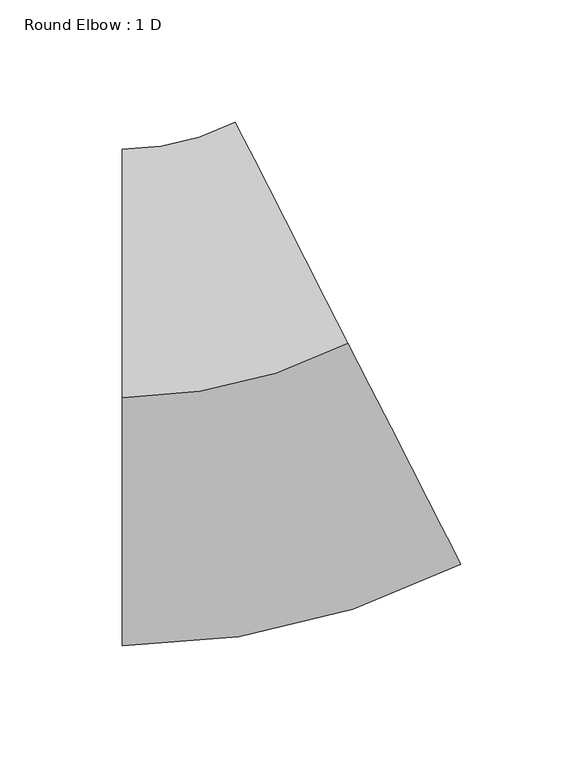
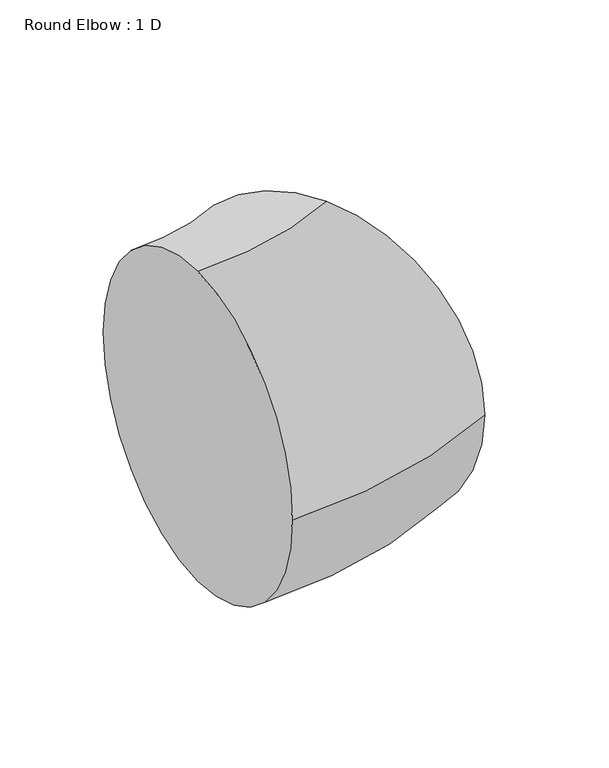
"""IFC4 building model written with IfcOpenShell, lengths in millimetres: duct fitting geometry, Round Elbow : 1 D."""

from ifc_helpers import new_model, si_unit, point, frame, origin, place, context, project, spatial, circle_curve, ellipse_curve, trimmed, source, transform, mapped, element, save
from ifc_brep_helpers import plane_surface, revolved_surface, advanced_brep


def round_elbow_1_d_e295ca55(model_context):
    return source(origin(), model_context, "Body", "AdvancedBrep", [
        advanced_brep(
        [(-48.8789066, 0.0, 101.6), (-48.8789066, 101.6, 0.0), (-48.8789066, 0.0, -101.6), (-48.8789066, -101.6, 0.0), (43.5318116, 22.2290102, 101.6), (89.7371707, -68.2564847, 0.0), (43.5318116, 22.2290102, -101.6), (-2.6735475, 112.7145051, 0.0)],
        [
            (0, 1, circle_curve(frame((-48.8789066, 0.0, 0.0), z_axis=(-1.0, 0.0, 0.0), x_axis=(0.0, 1.0, 0.0)), 101.6)),
            (1, 2, circle_curve(frame((-48.8789066, 0.0, 0.0), z_axis=(-1.0, 0.0, 0.0), x_axis=(0.0, 1.0, 0.0)), 101.6)),
            (2, 3, circle_curve(frame((-48.8789066, 0.0, 0.0), z_axis=(-1.0, 0.0, 0.0), x_axis=(0.0, 1.0, 0.0)), 101.6)),
            (3, 0, circle_curve(frame((-48.8789066, 0.0, 0.0), z_axis=(-1.0, 0.0, 0.0), x_axis=(0.0, 1.0, 0.0)), 101.6)),
            (4, 5, circle_curve(frame((43.5318116, 22.2290102, 0.0), z_axis=(0.8906052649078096, 0.45477715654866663, 0.0), x_axis=(-0.45477715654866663, 0.8906052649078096, 0.0)), 101.6)),
            (5, 6, circle_curve(frame((43.5318116, 22.2290102, 0.0), z_axis=(0.8906052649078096, 0.45477715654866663, 0.0), x_axis=(-0.45477715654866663, 0.8906052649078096, 0.0)), 101.6)),
            (6, 7, circle_curve(frame((43.5318116, 22.2290102, 0.0), z_axis=(0.8906052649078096, 0.45477715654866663, 0.0), x_axis=(-0.45477715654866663, 0.8906052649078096, 0.0)), 101.6)),
            (7, 4, circle_curve(frame((43.5318116, 22.2290102, 0.0), z_axis=(0.8906052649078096, 0.45477715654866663, 0.0), x_axis=(-0.45477715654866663, 0.8906052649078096, 0.0)), 101.6)),
            (7, 1, circle_curve(frame((-48.8789066, 203.2, 0.0), z_axis=(0.0, 0.0, -1.0), x_axis=(0.0, -1.0, 0.0)), 101.6)),
            (0, 4, circle_curve(frame((-48.8789066, 203.2, 101.6), z_axis=(0.0, 0.0, 1.0), x_axis=(0.0, -1.0, 0.0)), 203.2)),
            (6, 2, circle_curve(frame((-48.8789066, 203.2, -101.6), z_axis=(0.0, 0.0, -1.0), x_axis=(0.0, -1.0, 0.0)), 203.2)),
            (5, 3, circle_curve(frame((-48.8789066, 203.2, 0.0), z_axis=(0.0, 0.0, -1.0), x_axis=(0.0, -1.0, 0.0)), 304.8)),
        ],
        [
            plane_surface(frame((-48.8789066, 0.0, 0.0), z_axis=(-1.0, 0.0, 0.0), x_axis=(0.0, 0.0, 1.0))),
            plane_surface(frame((43.5318116, 22.2290102, 0.0), z_axis=(0.8906052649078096, 0.45477715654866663, 0.0), x_axis=(0.0, 0.0, 1.0))),
            revolved_surface(trimmed(ellipse_curve(frame((-48.8789066, 0.0, 0.0), z_axis=(-1.0, 0.0, 0.0), x_axis=(0.0, 1.0, 0.0)), 101.6, 101.6), [point((-48.8789066, 0.0, 101.6))], [point((-48.8789066, 101.6, 0.0))], True, "CARTESIAN"), (-48.8789066, 203.2, 0.0), (0.0, 0.0, 1.0)),
            revolved_surface(trimmed(ellipse_curve(frame((-48.8789066, 0.0, 0.0), z_axis=(-1.0, 0.0, 0.0), x_axis=(0.0, 1.0, 0.0)), 101.6, 101.6), [point((-48.8789066, 101.6, 0.0))], [point((-48.8789066, 0.0, -101.6))], True, "CARTESIAN"), (-48.8789066, 203.2, 0.0), (0.0, 0.0, 1.0)),
            revolved_surface(trimmed(ellipse_curve(frame((-48.8789066, 0.0, 0.0), z_axis=(-1.0, 0.0, 0.0), x_axis=(0.0, 1.0, 0.0)), 101.6, 101.6), [point((-48.8789066, 0.0, -101.6))], [point((-48.8789066, -101.6, 0.0))], True, "CARTESIAN"), (-48.8789066, 203.2, 0.0), (0.0, 0.0, 1.0)),
            revolved_surface(trimmed(ellipse_curve(frame((-48.8789066, 0.0, 0.0), z_axis=(-1.0, 0.0, 0.0), x_axis=(0.0, 1.0, 0.0)), 101.6, 101.6), [point((-48.8789066, -101.6, 0.0))], [point((-48.8789066, 0.0, 101.6))], True, "CARTESIAN"), (-48.8789066, 203.2, 0.0), (0.0, 0.0, 1.0)),
        ],
        [
            (0, [[1, 2, 3, 4]]),
            (1, [[5, 6, 7, 8]]),
            (2, [[9, -1, 10, -8]]),
            (3, [[11, -2, -9, -7]]),
            (4, [[12, -3, -11, -6]]),
            (5, [[-10, -4, -12, -5]]),
        ],
    ),
    ])


if __name__ == "__main__":
    model = new_model("IFC4")
    model_context = context("Model", 3, world=origin())
    ifc_project = project(units=[si_unit("LENGTHUNIT", "METRE", prefix="MILLI")], contexts=[model_context])
    site = spatial("IfcSite", under=ifc_project)
    building = spatial("IfcBuilding", under=site)
    placement = place(None, origin())
    round_elbow_1_d_shape = round_elbow_1_d_e295ca55(model_context)
    element("IfcDuctFitting", 1, ObjectType="Round Elbow : 1 D", at=placement, inside=building, context=model_context, shape_type="MappedRepresentation", body=[
        mapped(round_elbow_1_d_shape, transform((0.0, 0.0, 0.0), x_axis=(1.0, 0.0, 0.0), y_axis=(0.0, 1.0, 0.0), z_axis=(0.0, 0.0, 1.0))),
    ])
    save(model, "model.ifc")
